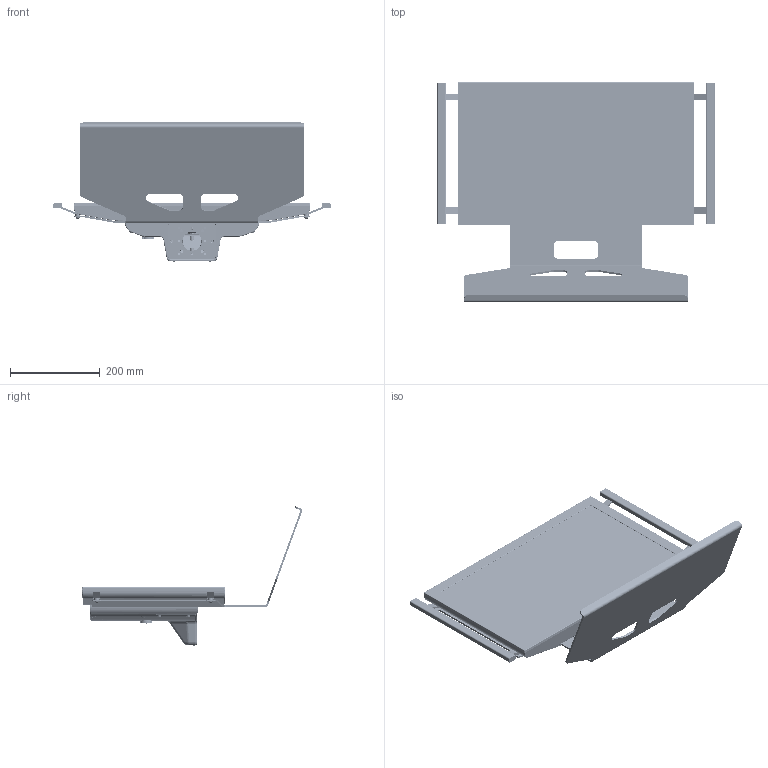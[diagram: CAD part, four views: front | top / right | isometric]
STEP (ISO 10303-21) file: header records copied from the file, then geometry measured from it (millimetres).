
FILE_DESCRIPTION (( 'STEP AP214' ), '1' );
FILE_NAME ('DIMA VK3500_MK200 BOTTOM ARM 215 RESISTIVO CON MANIGLIE E VASSOIO PORTA TASTIERA.STEP', '2022-06-22T11:57:46', ( '' ), ( '' ), 'SwSTEP 2.0', 'SolidWorks 2021', '' );
FILE_SCHEMA (( 'AUTOMOTIVE_DESIGN' ));
Length unit declared in the file: millimetre
Products named in the file (36): 55455148; 65720000; 69111034; 51736037; 58336032; 00_d18201905; 56202009; 48000059; 69111021; 51736038; 50342040; 59836016; 50342037; 60290016; 14300048; 58755015; 56102023; 58536020; 52706002; 56236021; 58755016; DIMA VK3500_MK200 BOTTOM ARM 215 RESISTIVO CON MANIGLIE E VASSOIO PORTA TASTIERA; 69111030; 65720013; 58736012; 65720029; 57903130_Default<A macchina>; 66811015; 66011054; 56636991_Default<A macchina>; 58536019; 58755017; 57836056_Default<A macchina>; 56600739; 58536015; 58700003
Assembly tree (71 placements, depth 5):
  DIMA VK3500_MK200 BOTTOM ARM 215 RESISTIVO CON MANIGLIE E VASSOIO PORTA TASTIERA
    56600739
      56636991_Default<A macchina>
      50342037
    48000059
    14300048
    57836056_Default<A macchina>
    56202009  x4
    66811015  x8
    69111021  x4
    56236021  x2
    00_d18201905
      58536020
        58536019
          58536015
      55455148
      57903130_Default<A macchina>
      51736038
        51736037
      65720029  x2
      66011054  x3
      69111030  x7
      58755015
      58755016  x4
      58755017  x5
      58700003
        58336032
        50342040
        58736012
        60290016
        56102023
        65720000
      65720013
    52706002  x4
    59836016
    69111034  x4
Bounding box: 619.5 x 491.64 x 310.98 mm (x, y, z)
Volume: 2779569.3 mm3; surface area: 1538464.5 mm2
Topology: 80 solids, 104 shells, 5491 faces, 13520 edges, 8326 vertices
Faces by surface type: cylinder 1778, plane 1715, bspline 865, cone 812, torus 224, sphere 97
Entity records: 194944 total; most frequent: CARTESIAN_POINT 89374, ORIENTED_EDGE 21730, DIRECTION 19432, EDGE_CURVE 10875, AXIS2_PLACEMENT_3D 7324, VERTEX_POINT 6737, EDGE_LOOP 4800, LINE 4784
